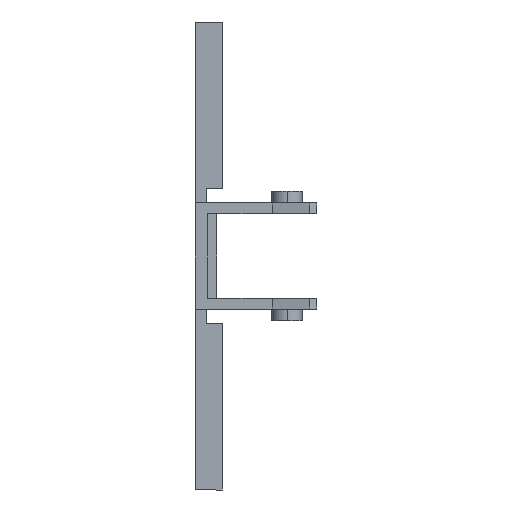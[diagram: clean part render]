
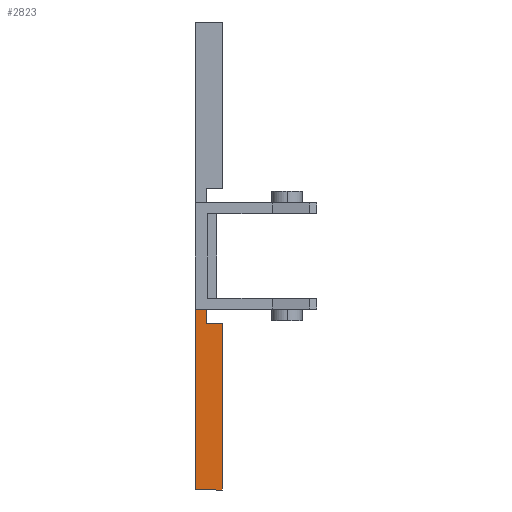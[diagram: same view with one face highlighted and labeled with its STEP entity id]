
A CAD part, front view. The second image highlights one B-rep face of the part: STEP entity #2823.
In plain terms, the highlighted planar face has unit normal (0, -1, 0).
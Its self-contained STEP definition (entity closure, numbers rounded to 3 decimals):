
#55 = VERTEX_POINT ( 'NONE', #230 ) ;
#74 = VERTEX_POINT ( 'NONE', #211 ) ;
#84 = VERTEX_POINT ( 'NONE', #201 ) ;
#141 = VERTEX_POINT ( 'NONE', #398 ) ;
#146 = VERTEX_POINT ( 'NONE', #392 ) ;
#153 = VERTEX_POINT ( 'NONE', #382 ) ;
#201 = CARTESIAN_POINT ( 'NONE',  ( 1.2, -9., -5.9 ) ) ;
#211 = CARTESIAN_POINT ( 'NONE',  ( 0., -9., -5.9 ) ) ;
#230 = CARTESIAN_POINT ( 'NONE',  ( 1.2, -9., -7.5 ) ) ;
#294 = CARTESIAN_POINT ( 'NONE',  ( 1.2, -9., -5.9 ) ) ;
#325 = DIRECTION ( 'NONE',  ( 1., 0., 0. ) ) ;
#382 = CARTESIAN_POINT ( 'NONE',  ( 3., -9., -7.5 ) ) ;
#392 = CARTESIAN_POINT ( 'NONE',  ( 3., -9., -26. ) ) ;
#398 = CARTESIAN_POINT ( 'NONE',  ( 0., -9., -26. ) ) ;
#607 = CARTESIAN_POINT ( 'NONE',  ( 0., -9., -26. ) ) ;
#656 = DIRECTION ( 'NONE',  ( 0., 0., -1. ) ) ;
#663 = CARTESIAN_POINT ( 'NONE',  ( 3., -9., -26. ) ) ;
#664 = DIRECTION ( 'NONE',  ( 1., 0., 0. ) ) ;
#680 = DIRECTION ( 'NONE',  ( -1., 0., 0. ) ) ;
#681 = CARTESIAN_POINT ( 'NONE',  ( 1.2, -9., -7.5 ) ) ;
#719 = DIRECTION ( 'NONE',  ( 0., 0., 1. ) ) ;
#724 = CARTESIAN_POINT ( 'NONE',  ( 1.2, -9., -5. ) ) ;
#795 = DIRECTION ( 'NONE',  ( 0., 0., 1. ) ) ;
#796 = DIRECTION ( 'NONE',  ( 0., 1., 0. ) ) ;
#798 = PLANE ( 'NONE',  #2797 ) ;
#801 = CARTESIAN_POINT ( 'NONE',  ( 1.2, -9., -5. ) ) ;
#1191 = DIRECTION ( 'NONE',  ( 0., 0., 1. ) ) ;
#1192 = CARTESIAN_POINT ( 'NONE',  ( 3., -9., -7.5 ) ) ;
#1239 = LINE ( 'NONE', #607, #1264 ) ;
#1264 = VECTOR ( 'NONE', #656, 1000. ) ;
#1272 = LINE ( 'NONE', #663, #1273 ) ;
#1273 = VECTOR ( 'NONE', #664, 1000. ) ;
#1299 = LINE ( 'NONE', #681, #1300 ) ;
#1300 = VECTOR ( 'NONE', #680, 1000. ) ;
#1335 = LINE ( 'NONE', #724, #1336 ) ;
#1336 = VECTOR ( 'NONE', #719, 1000. ) ;
#1382 = FACE_OUTER_BOUND ( 'NONE', #2265, .T. ) ;
#1563 = VECTOR ( 'NONE', #325, 1000. ) ;
#1568 = LINE ( 'NONE', #294, #1563 ) ;
#1729 = ORIENTED_EDGE ( 'NONE', *, *, #2455, .F. ) ;
#1730 = ORIENTED_EDGE ( 'NONE', *, *, #2634, .T. ) ;
#1731 = ORIENTED_EDGE ( 'NONE', *, *, #2638, .T. ) ;
#1732 = ORIENTED_EDGE ( 'NONE', *, *, #2562, .T. ) ;
#1733 = ORIENTED_EDGE ( 'NONE', *, *, #2648, .T. ) ;
#1734 = ORIENTED_EDGE ( 'NONE', *, *, #2668, .T. ) ;
#1974 = LINE ( 'NONE', #1192, #1975 ) ;
#1975 = VECTOR ( 'NONE', #1191, 1000. ) ;
#2265 = EDGE_LOOP ( 'NONE', ( #1729, #1730, #1731, #1732, #1733, #1734 ) ) ;
#2455 = EDGE_CURVE ( 'NONE', #74, #84, #1568, .T. ) ;
#2562 = EDGE_CURVE ( 'NONE', #146, #153, #1974, .T. ) ;
#2634 = EDGE_CURVE ( 'NONE', #74, #141, #1239, .T. ) ;
#2638 = EDGE_CURVE ( 'NONE', #141, #146, #1272, .T. ) ;
#2648 = EDGE_CURVE ( 'NONE', #153, #55, #1299, .T. ) ;
#2668 = EDGE_CURVE ( 'NONE', #55, #84, #1335, .T. ) ;
#2797 = AXIS2_PLACEMENT_3D ( 'NONE', #801, #796, #795 ) ;
#2823 = ADVANCED_FACE ( 'NONE', ( #1382 ), #798, .F. ) ;
